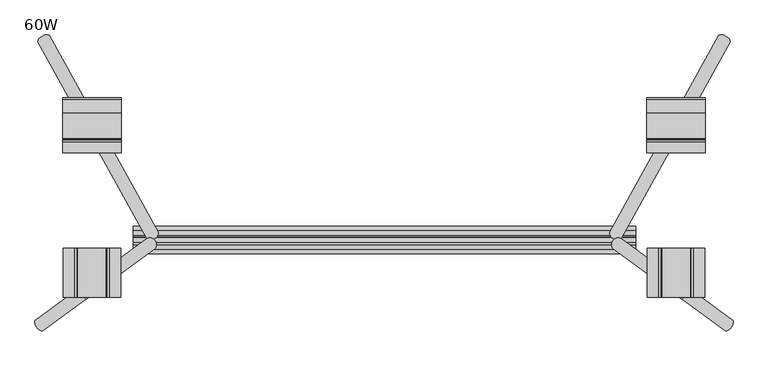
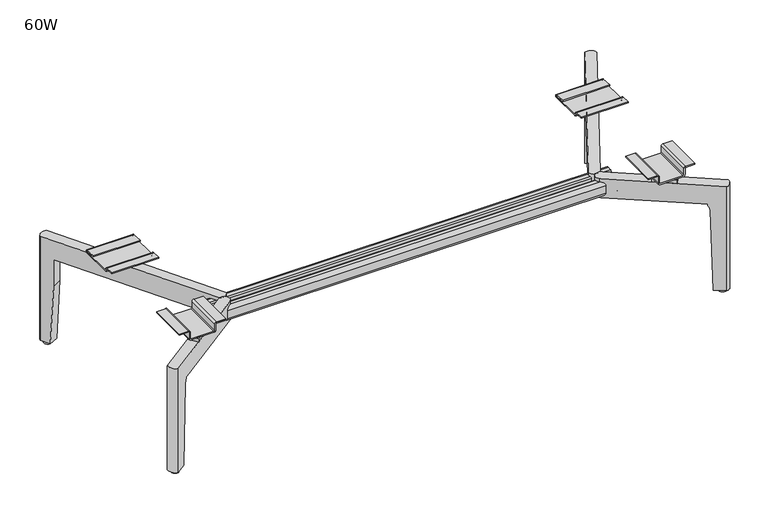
"""IFC4 building model written with IfcOpenShell, lengths in millimetres: furniture geometry, Steelcase Turnstone - Bivi - Seat - Rumble Seat - Freestanding Leg : 60W."""

from ifc_helpers import new_model, si_unit, point, frame, frame_2d, origin, place, context, project, spatial, polyline, circle_curve, ellipse_curve, trimmed, segment, composite_curve, outline, extrude, source, transform, mapped, element, save
from ifc_brep_helpers import plane_surface, cylinder_surface, revolved_surface, advanced_brep


def furniture_60w_b1f3d5a1(model_context):
    return source(origin(), model_context, "Body", "SolidModel", [
        advanced_brep(
        [(-600.2548281, 399.932442, 6.3507797), (-601.698132, 399.6401574, 0.0), (-595.1371977, 403.2769427, 0.0), (-596.1499037, 402.2078387, 6.3507797), (-613.1193509, 409.6947013, 6.3507797), (-592.8467253, 409.6947013, 6.3507797), (-592.8467253, 409.6947013, 0.0), (-613.1193509, 409.6947013, 0.0)],
        [
            (0, 1, ellipse_curve(frame((-602.9830381, 409.6947013, -134.6670445), z_axis=(0.4836286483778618, -0.872489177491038, -0.06975647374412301), x_axis=(0.03381860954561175, -0.061010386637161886, 0.9975640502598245)), 145.3099945, 10.1363128)),
            (1, 2),
            (2, 3, ellipse_curve(frame((-602.9830381, 409.6947013, -134.6670445), z_axis=(0.4836286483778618, -0.872489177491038, -0.06975647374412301), x_axis=(0.03381860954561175, -0.061010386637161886, 0.9975640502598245)), 145.3099945, 10.1363128)),
            (3, 0),
            (4, 0, circle_curve(frame((-602.9830381, 409.6947013, 6.3507797), z_axis=(0.0, 0.0, 1.0), x_axis=(1.0, 0.0, 0.0)), 10.1363128)),
            (3, 5, circle_curve(frame((-602.9830381, 409.6947013, 6.3507797), z_axis=(0.0, 0.0, 1.0), x_axis=(1.0, 0.0, 0.0)), 10.1363128)),
            (5, 4, circle_curve(frame((-602.9830381, 409.6947013, 6.3507797), z_axis=(0.0, 0.0, 1.0), x_axis=(1.0, 0.0, 0.0)), 10.1363128)),
            (6, 2, circle_curve(frame((-602.9830381, 409.6947013, 0.0), z_axis=(0.0, 0.0, -1.0), x_axis=(1.0, 0.0, 0.0)), 10.1363128)),
            (1, 7, circle_curve(frame((-602.9830381, 409.6947013, 0.0), z_axis=(0.0, 0.0, -1.0), x_axis=(1.0, 0.0, 0.0)), 10.1363128)),
            (7, 6, circle_curve(frame((-602.9830381, 409.6947013, 0.0), z_axis=(0.0, 0.0, -1.0), x_axis=(1.0, 0.0, 0.0)), 10.1363128)),
            (6, 5),
            (4, 7),
        ],
        [
            plane_surface(frame((-324.1888142, 535.4370031, 225.5013372), z_axis=(0.4836286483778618, -0.872489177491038, -0.06975647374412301), x_axis=(-0.8746197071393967, -0.48480962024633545, 0.0))),
            plane_surface(frame((-599.1419649, -171.9895532, 6.3507797), z_axis=(0.0, 0.0, 1.0), x_axis=(0.0, -1.0, 0.0))),
            plane_surface(frame((-599.1419649, -171.9895532, 0.0), z_axis=(0.0, 0.0, -1.0), x_axis=(0.0, 1.0, 0.0))),
            cylinder_surface(frame((-602.9830381, 409.6947013, 0.0), z_axis=(0.0, 0.0, 1.0), x_axis=(1.0, 0.0, 0.0)), 10.1363128),
        ],
        [
            (0, [[1, 2, 3, 4]]),
            (1, [[5, -4, 6, 7]]),
            (2, [[8, -2, 9, 10]]),
            (3, [[-6, -3, -8, 11]]),
            (3, [[-9, -1, -5, 12]]),
            (3, [[-11, -10, -12, -7]]),
        ],
    ),
        advanced_brep(
        [(-618.8437124, -171.9895532, 6.3507797), (-599.1419649, -171.9895532, 6.3507797), (-618.8437124, -171.9895532, 0.0), (-599.1419649, -171.9895532, 0.0)],
        [
            (0, 1, circle_curve(frame((-608.9928387, -171.9895532, 6.3507797), z_axis=(0.0, 0.0, 1.0), x_axis=(1.0, 0.0, 0.0)), 9.8508738)),
            (1, 0, circle_curve(frame((-608.9928387, -171.9895532, 6.3507797), z_axis=(0.0, 0.0, 1.0), x_axis=(1.0, 0.0, 0.0)), 9.8508738)),
            (2, 3, circle_curve(frame((-608.9928387, -171.9895532, 0.0), z_axis=(0.0, 0.0, -1.0), x_axis=(1.0, 0.0, 0.0)), 9.8508738)),
            (3, 2, circle_curve(frame((-608.9928387, -171.9895532, 0.0), z_axis=(0.0, 0.0, -1.0), x_axis=(1.0, 0.0, 0.0)), 9.8508738)),
            (0, 2),
            (3, 1),
        ],
        [
            plane_surface(frame((-599.1419649, -171.9895532, 6.3507797), z_axis=(0.0, 0.0, 1.0), x_axis=(0.0, -1.0, 0.0))),
            plane_surface(frame((-599.1419649, -171.9895532, 0.0), z_axis=(0.0, 0.0, -1.0), x_axis=(0.0, 1.0, 0.0))),
            cylinder_surface(frame((-608.9928387, -171.9895532, 0.0), z_axis=(0.0, 0.0, 1.0), x_axis=(1.0, 0.0, 0.0)), 9.8508738),
        ],
        [
            (0, [[1, 2]]),
            (1, [[3, 4]]),
            (2, [[5, -4, 6, -1]]),
            (2, [[-6, -3, -5, -2]]),
        ],
    ),
        advanced_brep(
        [(-609.9662616, -189.9876549, 6.7022799), (-609.9662616, -189.9876549, 292.4522799), (-625.9132074, -168.2156528, 292.4522799), (-625.9132074, -168.2156528, 6.7022799), (-393.2156572, 2.2241264, 241.2086832), (-393.2156572, 2.2241264, 292.4522799), (-377.2687113, -19.5478757, 292.4522799), (-377.2687113, -19.5478757, 241.2086832), (-601.0415256, -149.9983405, 6.7022799), (-585.5586161, -172.1102269, 6.7022799), (-380.0420494, -21.5792126, 241.2086832), (-563.4791874, -155.9381058, 241.2086832), (-578.9620969, -133.8262194, 241.2086832), (-395.9889952, 0.1927895, 241.2086832), (-590.6836418, -142.4116881, 241.2086832), (-584.0129574, -137.5257321, 241.2086832), (-568.5300478, -159.6376185, 241.2086832), (-574.736696, -164.1836902, 241.2086832), (-380.0420494, -21.5792126, 292.4522799), (-579.3937008, -167.5947225, 225.4829664), (-574.736696, -164.1836902, 237.4952058), (-395.9889952, 0.1927895, 292.4522799), (-590.6836418, -142.4116881, 236.9772021), (-594.8766103, -145.4828361, 225.4829664)],
        [
            (0, 1),
            (1, 2, circle_curve(frame((-606.7433039, -170.9008062, 292.4522799), z_axis=(0.0, 0.0, -1.0), x_axis=(1.0, 0.0, 0.0)), 19.3570465)),
            (2, 3),
            (3, 0, circle_curve(frame((-606.7433039, -170.9008062, 6.7022799), z_axis=(0.0, 0.0, 1.0), x_axis=(1.0, 0.0, 0.0)), 19.3570465)),
            (4, 5),
            (5, 6, circle_curve(frame((-386.6288533, -9.6775431, 292.4522799), z_axis=(0.0, 0.0, -1.0), x_axis=(1.0, 0.0, 0.0)), 13.6027836)),
            (6, 7),
            (7, 4, circle_curve(frame((-386.6288533, -9.6775431, 241.2086832), z_axis=(0.0, 0.0, 1.0), x_axis=(1.0, 0.0, 0.0)), 13.6027836)),
            (3, 8),
            (8, 9),
            (9, 0),
            (7, 10),
            (10, 11),
            (11, 12),
            (12, 13),
            (13, 4),
            (14, 15),
            (15, 16),
            (16, 17),
            (17, 14),
            (6, 18),
            (18, 1),
            (9, 19),
            (19, 20, ellipse_curve(frame((-566.0046176, -157.7878621, 224.9035373), z_axis=(-0.5909011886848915, 0.8067439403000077, 0.0), x_axis=(0.8067439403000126, 0.5909011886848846, 0.0)), 16.6065634, 16.6027928)),
            (20, 17),
            (16, 11, ellipse_curve(frame((-566.0046176, -157.7878621, 224.9035373), z_axis=(-0.5909011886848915, 0.8067439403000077, 0.0), x_axis=(0.8067439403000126, 0.5909011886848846, 0.0)), 16.6065634, 16.6027928)),
            (5, 21),
            (21, 2),
            (12, 15, ellipse_curve(frame((-581.4875271, -135.6759757, 224.9035373), z_axis=(0.5909011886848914, -0.8067439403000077, 0.0), x_axis=(0.8067439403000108, 0.5909011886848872, 0.0)), 16.6065634, 16.6027928)),
            (14, 22),
            (22, 23, ellipse_curve(frame((-581.4875271, -135.6759757, 224.9035373), z_axis=(0.5909011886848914, -0.8067439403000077, 0.0), x_axis=(0.8067439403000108, 0.5909011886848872, 0.0)), 16.6065634, 16.6027928)),
            (23, 8),
            (20, 22, ellipse_curve(frame((-274.6524516, -573.8818773, 224.9035373), z_axis=(-0.8067439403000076, -0.5909011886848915, 0.0), x_axis=(-0.5909011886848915, 0.8067439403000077, 0.0)), 779.1591647, 16.6027928)),
            (23, 19),
        ],
        [
            cylinder_surface(frame((-606.7433039, -170.9008062, 0.0), z_axis=(0.0, 0.0, -1.0), x_axis=(1.0, 0.0, 0.0)), 19.3570465),
            cylinder_surface(frame((-386.6288533, -9.6775431, 0.0), z_axis=(0.0, 0.0, -1.0), x_axis=(1.0, 0.0, 0.0)), 13.6027836),
            plane_surface(frame((-624.1396919, -183.4559971, 6.7022799), z_axis=(0.0, 0.0, -1.0), x_axis=(-0.5909011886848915, 0.8067439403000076, 0.0))),
            plane_surface(frame((-369.6996816, 19.448449, 241.2086832), z_axis=(0.0, 0.0, -1.0000000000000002), x_axis=(-0.8067439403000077, -0.5909011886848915, 0.0))),
            plane_surface(frame((-353.7527358, -2.3235531, 241.2086832), z_axis=(0.5909011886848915, -0.8067439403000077, 0.0), x_axis=(-0.8067439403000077, -0.5909011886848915, 0.0))),
            plane_surface(frame((-353.7527358, -2.3235531, 292.4522799), z_axis=(0.0, 0.0, 1.0), x_axis=(-0.8067439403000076, -0.5909011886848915, 0.0))),
            plane_surface(frame((-369.6996816, 19.448449, 292.4522799), z_axis=(-0.5909011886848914, 0.8067439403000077, 0.0), x_axis=(-0.8067439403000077, -0.5909011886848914, 0.0))),
            plane_surface(frame((-590.6836418, -142.4116881, 241.2086832), z_axis=(0.8067439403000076, 0.5909011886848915, 0.0), x_axis=(0.0, 0.0, -1.0))),
            plane_surface(frame((-761.8927218, 93.0408907, 225.4829664), z_axis=(0.818653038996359, 0.5732270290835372, -0.0348994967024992), x_axis=(0.5735764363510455, -0.8191520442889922, 0.0))),
            revolved_surface(polyline([(-568.0902827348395, -125.8631376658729, 224.9035373), (-552.2014386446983, -148.55475868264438, 224.9035373)]), (-373.006391, -433.4178947, 224.9035373), (-0.5735764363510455, 0.8191520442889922, 0.0)),
            revolved_surface(polyline([(-707.8581048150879, 73.74599884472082, 224.9035373), (185.75362502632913, -1202.463811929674, 224.9035373)]), (-373.006391, -433.4178947, 224.9035373), (-0.5735764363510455, 0.8191520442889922, 0.0)),
        ],
        [
            (0, [[1, 2, 3, 4]]),
            (1, [[5, 6, 7, 8]]),
            (2, [[9, 10, 11, -4]]),
            (3, [[-8, 12, 13, 14, 15, 16]]),
            (3, [[17, 18, 19, 20]]),
            (4, [[-7, 21, 22, -1, -11, 23, 24, 25, -19, 26, -13, -12]]),
            (5, [[-21, -6, 27, 28, -2, -22]]),
            (6, [[-15, 29, -17, 30, 31, 32, -9, -3, -28, -27, -5, -16]]),
            (7, [[-25, 33, -30, -20]]),
            (8, [[-23, -10, -32, 34]]),
            (9, [[-29, -14, -26, -18]]),
            (10, [[-31, -33, -24, -34]]),
        ],
    ),
        advanced_brep(
        [(-596.6904487, 426.4865494, 6.7022799), (-583.6709408, 402.9987354, 6.7022799), (-607.2747402, 389.9149358, 6.7022799), (-620.294248, 413.4027498, 6.7022799), (-579.5537242, 395.57108, 241.2086832), (-573.8162326, 385.2203713, 241.2086832), (-369.1819531, 16.0503586, 241.2086832), (-392.7857524, 2.966559, 241.2086832), (-597.420032, 372.1365716, 241.2086832), (-603.1575235, 382.4872804, 241.2086832), (-369.1819531, 16.0503586, 292.4522799), (-579.5537242, 395.57108, 168.7476885), (-596.6904487, 426.4865494, 292.4522799), (-620.294248, 413.4027498, 292.4522799), (-392.7857524, 2.966559, 292.4522799), (-603.1575235, 382.4872804, 168.7476885)],
        [
            (0, 1),
            (1, 2),
            (2, 3),
            (3, 0, circle_curve(frame((-601.8837107, 408.0223516, 6.7022799), z_axis=(0.0, 0.0, -1.0), x_axis=(1.0, 0.0, 0.0)), 19.1806301)),
            (4, 5),
            (5, 6),
            (6, 7, circle_curve(frame((-384.0722089, 15.0800008, 241.2086832), z_axis=(0.0, 0.0, -1.0), x_axis=(1.0, 0.0, 0.0)), 14.9218401)),
            (7, 8),
            (8, 9),
            (9, 4),
            (10, 6),
            (4, 11),
            (11, 1),
            (0, 12),
            (12, 10),
            (12, 13, circle_curve(frame((-601.8837107, 408.0223516, 292.4522799), z_axis=(0.0, 0.0, 1.0), x_axis=(1.0, 0.0, 0.0)), 19.1806301)),
            (13, 14),
            (14, 10, circle_curve(frame((-384.0722089, 15.0800008, 292.4522799), z_axis=(0.0, 0.0, 1.0), x_axis=(1.0, 0.0, 0.0)), 14.9218401)),
            (13, 3),
            (2, 15),
            (15, 9),
            (7, 14),
            (15, 11),
        ],
        [
            plane_surface(frame((-616.3308371, 433.7747682, 6.7022799), z_axis=(0.0, 0.0, -1.0000000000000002), x_axis=(-0.8746197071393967, -0.4848096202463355, 0.0))),
            plane_surface(frame((-351.3909415, -16.045476, 241.2086832), z_axis=(0.0, 0.0, -1.0), x_axis=(-0.48480962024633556, 0.8746197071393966, 0.0))),
            plane_surface(frame((-351.3909415, -16.045476, 292.4522799), z_axis=(0.8746197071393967, 0.48480962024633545, 0.0), x_axis=(-0.48480962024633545, 0.8746197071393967, 0.0))),
            plane_surface(frame((-374.9947408, -29.1292756, 292.4522799), z_axis=(0.0, 0.0, 1.0), x_axis=(-0.48480962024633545, 0.8746197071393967, 0.0))),
            plane_surface(frame((-374.9947408, -29.1292756, 241.2086832), z_axis=(-0.8746197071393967, -0.4848096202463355, 0.0), x_axis=(-0.4848096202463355, 0.8746197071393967, 0.0))),
            plane_surface(frame((-579.5537242, 395.57108, 241.2086832), z_axis=(0.48480962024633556, -0.8746197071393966, 0.0), x_axis=(0.0, 0.0, -1.0))),
            cylinder_surface(frame((-601.8837107, 408.0223516, 0.0), z_axis=(0.0, 0.0, -1.0), x_axis=(1.0, 0.0, 0.0)), 19.1806301),
            cylinder_surface(frame((-384.0722089, 15.0800008, 0.0), z_axis=(0.0, 0.0, -1.0), x_axis=(1.0, 0.0, 0.0)), 14.9218401),
            plane_surface(frame((-323.4618568, 534.1255371, 225.4824396), z_axis=(0.4841452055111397, -0.8734210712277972, -0.05233595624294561), x_axis=(-0.8746197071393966, -0.48480962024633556, 0.0))),
        ],
        [
            (0, [[1, 2, 3, 4]]),
            (1, [[5, 6, 7, 8, 9, 10]]),
            (2, [[11, -6, -5, 12, 13, -1, 14, 15]]),
            (3, [[16, 17, 18, -15]]),
            (4, [[19, -3, 20, 21, -9, -8, 22, -17]]),
            (5, [[-21, 23, -12, -10]]),
            (6, [[-19, -16, -14, -4]]),
            (7, [[-11, -18, -22, -7]]),
            (8, [[-13, -23, -20, -2]]),
        ],
    ),
        extrude(outline(polyline([(-512.6254616, 274.8292982), (-484.0935947, 223.3564477), (-507.2019114, 210.5472986), (-535.7337783, 262.0201491), (-512.6254616, 274.8292982)])), frame((0.0, 0.0, 292.4522799), z_axis=(0.0, 0.0, 1.0), x_axis=(1.0, 0.0, 0.0)), (0.0, 0.0, 1.0), 9.681731),
        extrude(outline(polyline([(-488.5197035, -67.5815101), (-472.5727577, -89.3535122), (-519.5031783, -123.7277912), (-535.4501241, -101.9557892), (-488.5197035, -67.5815101)])), frame((0.0, 0.0, 292.4522799), z_axis=(0.0, 0.0, 1.0), x_axis=(1.0, 0.0, 0.0)), (0.0, 0.0, 1.0), 9.681731),
        extrude(outline(composite_curve([segment(polyline([(329.0146194, -543.936926), (329.0146194, -567.319227), (326.1962261, -567.319227), (326.1962261, -541.9196146), (307.319003, -541.9196146)]), True, "CONTINUOUS"), segment(trimmed(circle_curve(frame_2d((307.319003, -536.7346224)), 5.1849921), [point((307.319003, -541.9196146))], [point((302.1340108, -536.7346224))], False, "CARTESIAN"), True, "CONTINUOUS"), segment(polyline([(302.1340108, -536.7346224), (302.1340108, -477.3218765)]), True, "CONTINUOUS"), segment(trimmed(circle_curve(frame_2d((307.319003, -477.3218765)), 5.1849921), [point((302.1340108, -477.3218765))], [point((307.319003, -472.1368843))], False, "CARTESIAN"), True, "CONTINUOUS"), segment(polyline([(307.319003, -472.1368843), (326.1962261, -472.1368843), (326.1962261, -446.7372719), (329.0146194, -446.7372719), (329.0146194, -470.1195729)]), True, "CONTINUOUS"), segment(trimmed(circle_curve(frame_2d((323.9591212, -470.1195729)), 5.0554981), [point((329.0146194, -470.1195729))], [point((323.9591212, -475.175071))], False, "CARTESIAN"), True, "CONTINUOUS"), segment(polyline([(323.9591212, -475.175071), (307.4106461, -475.175071)]), True, "CONTINUOUS"), segment(trimmed(circle_curve(frame_2d((307.4106461, -477.4138648)), 2.2387938), [point((307.4106461, -475.175071))], [point((305.1718523, -477.4138648))], True, "CARTESIAN"), True, "CONTINUOUS"), segment(polyline([(305.1718523, -477.4138648), (305.1718523, -536.6426342)]), True, "CONTINUOUS"), segment(trimmed(circle_curve(frame_2d((307.4106461, -536.6426342)), 2.2387938), [point((305.1718523, -536.6426342))], [point((307.4106461, -538.8814279))], True, "CARTESIAN"), True, "CONTINUOUS"), segment(polyline([(307.4106461, -538.8814279), (323.9591212, -538.8814279)]), True, "CONTINUOUS"), segment(trimmed(circle_curve(frame_2d((323.9591212, -543.936926)), 5.0554981), [point((323.9591212, -538.8814279))], [point((329.0146194, -543.936926))], False, "CARTESIAN"), True, "CONTINUOUS")], self_intersect=False)), frame((0.0, -119.6808622, 0.0), z_axis=(0.0, 1.0, 0.0), x_axis=(0.0, 0.0, 1.0)), (0.0, 0.0, 1.0), 101.810408),
        extrude(outline(composite_curve([segment(polyline([(210.5472986, 305.1718523), (293.0972986, 305.1718523)]), True, "CONTINUOUS"), segment(trimmed(circle_curve(frame_2d((293.0706733, 305.6798944)), 0.5087393), [point((293.0972986, 305.1718523))], [point((293.0972986, 306.1879364))], True, "CARTESIAN"), True, "CONTINUOUS"), segment(polyline([(293.0972986, 306.1879364), (264.6966329, 307.6763522), (264.6966329, 310.6138209), (293.0972986, 309.1254051)]), True, "CONTINUOUS"), segment(trimmed(circle_curve(frame_2d((292.9140969, 305.629708)), 3.5004944), [point((293.0972986, 309.1254051))], [point((293.0972986, 302.1340108))], False, "CARTESIAN"), True, "CONTINUOUS"), segment(polyline([(293.0972986, 302.1340108), (210.5472986, 302.1340108)]), True, "CONTINUOUS"), segment(trimmed(circle_curve(frame_2d((210.5472986, 306.5928983)), 4.4588874), [point((210.5472986, 302.1340108))], [point((206.0896008, 306.6958872))], False, "CARTESIAN"), True, "CONTINUOUS"), segment(polyline([(206.0896008, 306.6958872), (206.0896008, 308.9892465)]), True, "CONTINUOUS"), segment(trimmed(circle_curve(frame_2d((204.5626663, 308.9892465)), 1.5269345), [point((206.0896008, 308.9892465))], [point((204.6399799, 310.5142224))], True, "CARTESIAN"), True, "CONTINUOUS"), segment(polyline([(204.6399799, 310.5142224), (181.1002415, 311.7478878), (181.1002415, 314.6691166), (204.5350283, 313.4409515)]), True, "CONTINUOUS"), segment(trimmed(circle_curve(frame_2d((204.2966829, 308.8930489)), 4.5541438), [point((204.5350283, 313.4409515))], [point((208.6006854, 310.3816014))], False, "CARTESIAN"), True, "CONTINUOUS"), segment(trimmed(circle_curve(frame_2d((199.2165598, 307.1360729)), 9.9295149), [point((208.6006854, 310.3816014))], [point((209.1329432, 306.625575))], False, "CARTESIAN"), True, "CONTINUOUS"), segment(trimmed(circle_curve(frame_2d((211.0902359, 307.1149751)), 2.0175498), [point((209.1329432, 306.625575))], [point((210.5472986, 305.1718523))], True, "CARTESIAN"), True, "CONTINUOUS")], self_intersect=False)), frame((-568.4038708, 0.0, 0.0), z_axis=(1.0, 0.0, 0.0), x_axis=(0.0, 1.0, 0.0)), (0.0, 0.0, 1.0), 121.840912),
        advanced_brep(
        [(803.4798535, 399.932442, 6.3507797), (799.3749291, 402.2078387, 6.3507797), (798.3622232, 403.2769427, 0.0), (804.9231575, 399.6401574, 0.0), (816.3443764, 409.6947013, 6.3507797), (796.0717507, 409.6947013, 6.3507797), (796.0717507, 409.6947013, 0.0), (816.3443764, 409.6947013, 0.0)],
        [
            (0, 1),
            (1, 2, ellipse_curve(frame((806.2080635, 409.6947013, -134.6670445), z_axis=(-0.4836286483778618, -0.872489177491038, -0.06975647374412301), x_axis=(-0.03381860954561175, -0.061010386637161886, 0.9975640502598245)), 145.3099945, 10.1363128)),
            (2, 3),
            (3, 0, ellipse_curve(frame((806.2080635, 409.6947013, -134.6670445), z_axis=(-0.4836286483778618, -0.872489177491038, -0.06975647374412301), x_axis=(-0.03381860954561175, -0.061010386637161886, 0.9975640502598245)), 145.3099945, 10.1363128)),
            (4, 5, circle_curve(frame((806.2080635, 409.6947013, 6.3507797), z_axis=(0.0, 0.0, 1.0), x_axis=(-1.0, 0.0, 0.0)), 10.1363128)),
            (5, 1, circle_curve(frame((806.2080635, 409.6947013, 6.3507797), z_axis=(0.0, 0.0, 1.0), x_axis=(-1.0, 0.0, 0.0)), 10.1363128)),
            (0, 4, circle_curve(frame((806.2080635, 409.6947013, 6.3507797), z_axis=(0.0, 0.0, 1.0), x_axis=(-1.0, 0.0, 0.0)), 10.1363128)),
            (6, 7, circle_curve(frame((806.2080635, 409.6947013, 0.0), z_axis=(0.0, 0.0, -1.0), x_axis=(-1.0, 0.0, 0.0)), 10.1363128)),
            (7, 3, circle_curve(frame((806.2080635, 409.6947013, 0.0), z_axis=(0.0, 0.0, -1.0), x_axis=(-1.0, 0.0, 0.0)), 10.1363128)),
            (2, 6, circle_curve(frame((806.2080635, 409.6947013, 0.0), z_axis=(0.0, 0.0, -1.0), x_axis=(-1.0, 0.0, 0.0)), 10.1363128)),
            (5, 6),
            (7, 4),
        ],
        [
            plane_surface(frame((527.4138397, 535.4370031, 225.5013372), z_axis=(-0.4836286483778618, -0.872489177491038, -0.06975647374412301), x_axis=(0.8746197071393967, -0.48480962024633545, 0.0))),
            plane_surface(frame((802.3669904, -171.9895532, 6.3507797), z_axis=(0.0, 0.0, 1.0), x_axis=(0.0, -1.0, 0.0))),
            plane_surface(frame((802.3669904, -171.9895532, 0.0), z_axis=(0.0, 0.0, -1.0), x_axis=(0.0, 1.0, 0.0))),
            cylinder_surface(frame((806.2080635, 409.6947013, 0.0), z_axis=(0.0, 0.0, 1.0), x_axis=(-1.0, 0.0, 0.0)), 10.1363128),
        ],
        [
            (0, [[1, 2, 3, 4]]),
            (1, [[5, 6, -1, 7]]),
            (2, [[8, 9, -3, 10]]),
            (3, [[11, -10, -2, -6]]),
            (3, [[12, -7, -4, -9]]),
            (3, [[-5, -12, -8, -11]]),
        ],
    ),
        advanced_brep(
        [(822.0687379, -171.9895532, 6.3507797), (802.3669904, -171.9895532, 6.3507797), (822.0687379, -171.9895532, 0.0), (802.3669904, -171.9895532, 0.0)],
        [
            (0, 1, circle_curve(frame((812.2178641, -171.9895532, 6.3507797), z_axis=(0.0, 0.0, 1.0), x_axis=(-1.0, 0.0, 0.0)), 9.8508738)),
            (1, 0, circle_curve(frame((812.2178641, -171.9895532, 6.3507797), z_axis=(0.0, 0.0, 1.0), x_axis=(-1.0, 0.0, 0.0)), 9.8508738)),
            (2, 3, circle_curve(frame((812.2178641, -171.9895532, 0.0), z_axis=(0.0, 0.0, -1.0), x_axis=(-1.0, 0.0, 0.0)), 9.8508738)),
            (3, 2, circle_curve(frame((812.2178641, -171.9895532, 0.0), z_axis=(0.0, 0.0, -1.0), x_axis=(-1.0, 0.0, 0.0)), 9.8508738)),
            (1, 3),
            (2, 0),
        ],
        [
            plane_surface(frame((802.3669904, -171.9895532, 6.3507797), z_axis=(0.0, 0.0, 1.0), x_axis=(0.0, -1.0, 0.0))),
            plane_surface(frame((802.3669904, -171.9895532, 0.0), z_axis=(0.0, 0.0, -1.0), x_axis=(0.0, 1.0, 0.0))),
            cylinder_surface(frame((812.2178641, -171.9895532, 0.0), z_axis=(0.0, 0.0, 1.0), x_axis=(-1.0, 0.0, 0.0)), 9.8508738),
        ],
        [
            (0, [[1, 2]]),
            (1, [[3, 4]]),
            (2, [[-2, 5, -3, 6]]),
            (2, [[-1, -6, -4, -5]]),
        ],
    ),
        advanced_brep(
        [(813.191287, -189.9876549, 6.7022799), (829.1382329, -168.2156528, 6.7022799), (829.1382329, -168.2156528, 292.4522799), (813.191287, -189.9876549, 292.4522799), (596.4406826, 2.2241264, 241.2086832), (580.4937368, -19.5478757, 241.2086832), (580.4937368, -19.5478757, 292.4522799), (596.4406826, 2.2241264, 292.4522799), (788.7836416, -172.1102269, 6.7022799), (804.2665511, -149.9983405, 6.7022799), (793.9086673, -142.4116881, 241.2086832), (777.9617215, -164.1836902, 241.2086832), (771.7550733, -159.6376185, 241.2086832), (787.2379828, -137.5257321, 241.2086832), (599.2140207, 0.1927895, 241.2086832), (782.1871224, -133.8262194, 241.2086832), (766.7042128, -155.9381058, 241.2086832), (583.2670749, -21.5792126, 241.2086832), (777.9617215, -164.1836902, 237.4952058), (782.6187262, -167.5947225, 225.4829664), (583.2670749, -21.5792126, 292.4522799), (599.2140207, 0.1927895, 292.4522799), (798.1016358, -145.4828361, 225.4829664), (793.9086673, -142.4116881, 236.9772021)],
        [
            (0, 1, circle_curve(frame((809.9683293, -170.9008062, 6.7022799), z_axis=(0.0, 0.0, 1.0), x_axis=(-1.0, 0.0, 0.0)), 19.3570465)),
            (1, 2),
            (2, 3, circle_curve(frame((809.9683293, -170.9008062, 292.4522799), z_axis=(0.0, 0.0, -1.0), x_axis=(-1.0, 0.0, 0.0)), 19.3570465)),
            (3, 0),
            (4, 5, circle_curve(frame((589.8538787, -9.6775431, 241.2086832), z_axis=(0.0, 0.0, 1.0), x_axis=(-1.0, 0.0, 0.0)), 13.6027836)),
            (5, 6),
            (6, 7, circle_curve(frame((589.8538787, -9.6775431, 292.4522799), z_axis=(0.0, 0.0, -1.0), x_axis=(-1.0, 0.0, 0.0)), 13.6027836)),
            (7, 4),
            (0, 8),
            (8, 9),
            (9, 1),
            (10, 11),
            (11, 12),
            (12, 13),
            (13, 10),
            (4, 14),
            (14, 15),
            (15, 16),
            (16, 17),
            (17, 5),
            (16, 12, ellipse_curve(frame((769.2296431, -157.7878621, 224.9035373), z_axis=(0.5909011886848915, 0.8067439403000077, 0.0), x_axis=(-0.8067439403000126, 0.5909011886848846, 0.0)), 16.6065634, 16.6027928)),
            (11, 18),
            (18, 19, ellipse_curve(frame((769.2296431, -157.7878621, 224.9035373), z_axis=(0.5909011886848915, 0.8067439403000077, 0.0), x_axis=(-0.8067439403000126, 0.5909011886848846, 0.0)), 16.6065634, 16.6027928)),
            (19, 8),
            (3, 20),
            (20, 6),
            (2, 21),
            (21, 7),
            (9, 22),
            (22, 23, ellipse_curve(frame((784.7125526, -135.6759757, 224.9035373), z_axis=(-0.5909011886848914, -0.8067439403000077, 0.0), x_axis=(-0.8067439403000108, 0.5909011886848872, 0.0)), 16.6065634, 16.6027928)),
            (23, 10),
            (13, 15, ellipse_curve(frame((784.7125526, -135.6759757, 224.9035373), z_axis=(-0.5909011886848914, -0.8067439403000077, 0.0), x_axis=(-0.8067439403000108, 0.5909011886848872, 0.0)), 16.6065634, 16.6027928)),
            (23, 18, ellipse_curve(frame((477.877477, -573.8818773, 224.9035373), z_axis=(0.8067439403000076, -0.5909011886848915, 0.0), x_axis=(0.5909011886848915, 0.8067439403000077, 0.0)), 779.1591647, 16.6027928)),
            (19, 22),
        ],
        [
            cylinder_surface(frame((809.9683293, -170.9008062, 0.0), z_axis=(0.0, 0.0, -1.0), x_axis=(-1.0, 0.0, 0.0)), 19.3570465),
            cylinder_surface(frame((589.8538787, -9.6775431, 0.0), z_axis=(0.0, 0.0, -1.0), x_axis=(-1.0, 0.0, 0.0)), 13.6027836),
            plane_surface(frame((827.3647174, -183.4559971, 6.7022799), z_axis=(0.0, 0.0, -1.0), x_axis=(0.5909011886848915, 0.8067439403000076, 0.0))),
            plane_surface(frame((572.9247071, 19.448449, 241.2086832), z_axis=(0.0, 0.0, -1.0000000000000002), x_axis=(0.8067439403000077, -0.5909011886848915, 0.0))),
            plane_surface(frame((556.9777613, -2.3235531, 241.2086832), z_axis=(-0.5909011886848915, -0.8067439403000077, 0.0), x_axis=(0.8067439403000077, -0.5909011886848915, 0.0))),
            plane_surface(frame((556.9777613, -2.3235531, 292.4522799), z_axis=(0.0, 0.0, 1.0), x_axis=(0.8067439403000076, -0.5909011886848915, 0.0))),
            plane_surface(frame((572.9247071, 19.448449, 292.4522799), z_axis=(0.5909011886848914, 0.8067439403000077, 0.0), x_axis=(0.8067439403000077, -0.5909011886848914, 0.0))),
            plane_surface(frame((793.9086673, -142.4116881, 241.2086832), z_axis=(-0.8067439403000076, 0.5909011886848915, 0.0), x_axis=(0.0, 0.0, -1.0))),
            plane_surface(frame((965.1177473, 93.0408907, 225.4829664), z_axis=(-0.818653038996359, 0.5732270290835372, -0.0348994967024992), x_axis=(-0.5735764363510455, -0.8191520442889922, 0.0))),
            revolved_surface(polyline([(771.3153082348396, -125.8631376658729, 224.9035373), (755.4264641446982, -148.55475868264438, 224.9035373)]), (576.2314165, -433.4178947, 224.9035373), (0.5735764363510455, 0.8191520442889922, 0.0)),
            revolved_surface(polyline([(911.083130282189, 73.74599879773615, 224.9035373), (17.47140044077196, -1202.4638119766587, 224.9035373)]), (576.2314165, -433.4178947, 224.9035373), (0.5735764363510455, 0.8191520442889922, 0.0)),
        ],
        [
            (0, [[1, 2, 3, 4]]),
            (1, [[5, 6, 7, 8]]),
            (2, [[-1, 9, 10, 11]]),
            (3, [[12, 13, 14, 15]]),
            (3, [[16, 17, 18, 19, 20, -5]]),
            (4, [[-20, -19, 21, -13, 22, 23, 24, -9, -4, 25, 26, -6]]),
            (5, [[-25, -3, 27, 28, -7, -26]]),
            (6, [[-16, -8, -28, -27, -2, -11, 29, 30, 31, -15, 32, -17]]),
            (7, [[-12, -31, 33, -22]]),
            (8, [[34, -29, -10, -24]]),
            (9, [[-14, -21, -18, -32]]),
            (10, [[-34, -23, -33, -30]]),
        ],
    ),
        advanced_brep(
        [(799.9154741, 426.4865494, 6.7022799), (823.5192735, 413.4027498, 6.7022799), (810.4997656, 389.9149358, 6.7022799), (786.8959663, 402.9987354, 6.7022799), (782.7787497, 395.57108, 241.2086832), (806.382549, 382.4872804, 241.2086832), (800.6450574, 372.1365716, 241.2086832), (596.0107779, 2.966559, 241.2086832), (572.4069785, 16.0503586, 241.2086832), (777.0412581, 385.2203713, 241.2086832), (572.4069785, 16.0503586, 292.4522799), (799.9154741, 426.4865494, 292.4522799), (782.7787497, 395.57108, 168.7476885), (596.0107779, 2.966559, 292.4522799), (823.5192735, 413.4027498, 292.4522799), (806.382549, 382.4872804, 168.7476885)],
        [
            (0, 1, circle_curve(frame((805.1087361, 408.0223516, 6.7022799), z_axis=(0.0, 0.0, -1.0), x_axis=(-1.0, 0.0, 0.0)), 19.1806301)),
            (1, 2),
            (2, 3),
            (3, 0),
            (4, 5),
            (5, 6),
            (6, 7),
            (7, 8, circle_curve(frame((587.2972344, 15.0800008, 241.2086832), z_axis=(0.0, 0.0, -1.0), x_axis=(-1.0, 0.0, 0.0)), 14.9218401)),
            (8, 9),
            (9, 4),
            (10, 11),
            (11, 0),
            (3, 12),
            (12, 4),
            (8, 10),
            (10, 13, circle_curve(frame((587.2972344, 15.0800008, 292.4522799), z_axis=(0.0, 0.0, 1.0), x_axis=(-1.0, 0.0, 0.0)), 14.9218401)),
            (13, 14),
            (14, 11, circle_curve(frame((805.1087361, 408.0223516, 292.4522799), z_axis=(0.0, 0.0, 1.0), x_axis=(-1.0, 0.0, 0.0)), 19.1806301)),
            (13, 7),
            (5, 15),
            (15, 2),
            (1, 14),
            (12, 15),
        ],
        [
            plane_surface(frame((819.5558626, 433.7747682, 6.7022799), z_axis=(0.0, 0.0, -1.0000000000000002), x_axis=(0.8746197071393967, -0.4848096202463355, 0.0))),
            plane_surface(frame((554.6159669, -16.045476, 241.2086832), z_axis=(0.0, 0.0, -1.0), x_axis=(0.48480962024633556, 0.8746197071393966, 0.0))),
            plane_surface(frame((554.6159669, -16.045476, 292.4522799), z_axis=(-0.8746197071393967, 0.48480962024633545, 0.0), x_axis=(0.48480962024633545, 0.8746197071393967, 0.0))),
            plane_surface(frame((578.2197663, -29.1292756, 292.4522799), z_axis=(0.0, 0.0, 1.0), x_axis=(0.48480962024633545, 0.8746197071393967, 0.0))),
            plane_surface(frame((578.2197663, -29.1292756, 241.2086832), z_axis=(0.8746197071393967, -0.4848096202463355, 0.0), x_axis=(0.4848096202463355, 0.8746197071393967, 0.0))),
            plane_surface(frame((782.7787497, 395.57108, 241.2086832), z_axis=(-0.48480962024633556, -0.8746197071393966, 0.0), x_axis=(0.0, 0.0, -1.0))),
            cylinder_surface(frame((805.1087361, 408.0223516, 0.0), z_axis=(0.0, 0.0, -1.0), x_axis=(-1.0, 0.0, 0.0)), 19.1806301),
            cylinder_surface(frame((587.2972344, 15.0800008, 0.0), z_axis=(0.0, 0.0, -1.0), x_axis=(-1.0, 0.0, 0.0)), 14.9218401),
            plane_surface(frame((526.6868822, 534.1255371, 225.4824396), z_axis=(-0.4841452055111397, -0.8734210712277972, -0.05233595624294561), x_axis=(0.8746197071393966, -0.48480962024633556, 0.0))),
        ],
        [
            (0, [[1, 2, 3, 4]]),
            (1, [[5, 6, 7, 8, 9, 10]]),
            (2, [[11, 12, -4, 13, 14, -10, -9, 15]]),
            (3, [[-11, 16, 17, 18]]),
            (4, [[-17, 19, -7, -6, 20, 21, -2, 22]]),
            (5, [[-5, -14, 23, -20]]),
            (6, [[-1, -12, -18, -22]]),
            (7, [[-8, -19, -16, -15]]),
            (8, [[-3, -21, -23, -13]]),
        ],
    ),
        extrude(outline(polyline([(715.8504871, 274.8292982), (738.9588038, 262.0201491), (710.4269369, 210.5472986), (687.3186202, 223.3564477), (715.8504871, 274.8292982)])), frame((0.0, 0.0, 292.4522799), z_axis=(0.0, 0.0, 1.0), x_axis=(1.0, 0.0, 0.0)), (0.0, 0.0, 1.0), 9.681731),
        extrude(outline(polyline([(691.744729, -67.5815101), (738.6751495, -101.9557892), (722.7282037, -123.7277912), (675.7977832, -89.3535122), (691.744729, -67.5815101)])), frame((0.0, 0.0, 292.4522799), z_axis=(0.0, 0.0, 1.0), x_axis=(1.0, 0.0, 0.0)), (0.0, 0.0, 1.0), 9.681731),
        extrude(outline(composite_curve([segment(trimmed(circle_curve(frame_2d((323.9591212, 747.1619515)), 5.0554981), [point((329.0146194, 747.1619515))], [point((323.9591212, 742.1064534))], False, "CARTESIAN"), True, "CONTINUOUS"), segment(polyline([(323.9591212, 742.1064534), (307.4106461, 742.1064534)]), True, "CONTINUOUS"), segment(trimmed(circle_curve(frame_2d((307.4106461, 739.8676596)), 2.2387938), [point((307.4106461, 742.1064534))], [point((305.1718523, 739.8676596))], True, "CARTESIAN"), True, "CONTINUOUS"), segment(polyline([(305.1718523, 739.8676596), (305.1718523, 680.6388902)]), True, "CONTINUOUS"), segment(trimmed(circle_curve(frame_2d((307.4106461, 680.6388902)), 2.2387938), [point((305.1718523, 680.6388902))], [point((307.4106461, 678.4000964))], True, "CARTESIAN"), True, "CONTINUOUS"), segment(polyline([(307.4106461, 678.4000964), (323.9591212, 678.4000964)]), True, "CONTINUOUS"), segment(trimmed(circle_curve(frame_2d((323.9591212, 673.3445983)), 5.0554981), [point((323.9591212, 678.4000964))], [point((329.0146194, 673.3445983))], False, "CARTESIAN"), True, "CONTINUOUS"), segment(polyline([(329.0146194, 673.3445983), (329.0146194, 649.9622974), (326.1962261, 649.9622974), (326.1962261, 675.3619098), (307.319003, 675.3619098)]), True, "CONTINUOUS"), segment(trimmed(circle_curve(frame_2d((307.319003, 680.5469019)), 5.1849921), [point((307.319003, 675.3619098))], [point((302.1340108, 680.5469019))], False, "CARTESIAN"), True, "CONTINUOUS"), segment(polyline([(302.1340108, 680.5469019), (302.1340108, 739.9596479)]), True, "CONTINUOUS"), segment(trimmed(circle_curve(frame_2d((307.319003, 739.9596479)), 5.1849921), [point((302.1340108, 739.9596479))], [point((307.319003, 745.14464))], False, "CARTESIAN"), True, "CONTINUOUS"), segment(polyline([(307.319003, 745.14464), (326.1962261, 745.14464), (326.1962261, 770.5442524), (329.0146194, 770.5442524), (329.0146194, 747.1619515)]), True, "CONTINUOUS")], self_intersect=False)), frame((0.0, -119.6808622, 0.0), z_axis=(0.0, 1.0, 0.0), x_axis=(0.0, 0.0, 1.0)), (0.0, 0.0, 1.0), 101.810408),
        extrude(outline(composite_curve([segment(polyline([(210.5472986, 305.1718523), (293.0972986, 305.1718523)]), True, "CONTINUOUS"), segment(trimmed(circle_curve(frame_2d((293.0706733, 305.6798944)), 0.5087393), [point((293.0972986, 305.1718523))], [point((293.0972986, 306.1879364))], True, "CARTESIAN"), True, "CONTINUOUS"), segment(polyline([(293.0972986, 306.1879364), (264.6966329, 307.6763522), (264.6966329, 310.6138209), (293.0972986, 309.1254051)]), True, "CONTINUOUS"), segment(trimmed(circle_curve(frame_2d((292.9140969, 305.629708)), 3.5004944), [point((293.0972986, 309.1254051))], [point((293.0972986, 302.1340108))], False, "CARTESIAN"), True, "CONTINUOUS"), segment(polyline([(293.0972986, 302.1340108), (210.5472986, 302.1340108)]), True, "CONTINUOUS"), segment(trimmed(circle_curve(frame_2d((210.5472986, 306.5928983)), 4.4588874), [point((210.5472986, 302.1340108))], [point((206.0896008, 306.6958872))], False, "CARTESIAN"), True, "CONTINUOUS"), segment(polyline([(206.0896008, 306.6958872), (206.0896008, 308.9892465)]), True, "CONTINUOUS"), segment(trimmed(circle_curve(frame_2d((204.5626663, 308.9892465)), 1.5269345), [point((206.0896008, 308.9892465))], [point((204.6399799, 310.5142224))], True, "CARTESIAN"), True, "CONTINUOUS"), segment(polyline([(204.6399799, 310.5142224), (181.1002415, 311.7478878), (181.1002415, 314.6691166), (204.5350283, 313.4409515)]), True, "CONTINUOUS"), segment(trimmed(circle_curve(frame_2d((204.2966829, 308.8930489)), 4.5541438), [point((204.5350283, 313.4409515))], [point((208.6006854, 310.3816014))], False, "CARTESIAN"), True, "CONTINUOUS"), segment(trimmed(circle_curve(frame_2d((199.2165598, 307.1360729)), 9.9295149), [point((208.6006854, 310.3816014))], [point((209.1329432, 306.625575))], False, "CARTESIAN"), True, "CONTINUOUS"), segment(trimmed(circle_curve(frame_2d((211.0902359, 307.1149751)), 2.0175498), [point((209.1329432, 306.625575))], [point((210.5472986, 305.1718523))], True, "CARTESIAN"), True, "CONTINUOUS")], self_intersect=False)), frame((649.7879843, 0.0, 0.0), z_axis=(1.0, 0.0, 0.0), x_axis=(0.0, 1.0, 0.0)), (0.0, 0.0, 1.0), 121.840912),
        extrude(outline(composite_curve([segment(trimmed(circle_curve(frame_2d((-20.3378129, 254.2147965)), 8.636), [point((-20.3378129, 245.5787965))], [point((-28.9738129, 254.2147965))], False, "CARTESIAN"), True, "CONTINUOUS"), segment(polyline([(-28.9738129, 254.2147965), (-28.9738129, 275.4001954)]), True, "CONTINUOUS"), segment(trimmed(circle_curve(frame_2d((-20.4106361, 275.4001954)), 8.5631768), [point((-28.9738129, 275.4001954))], [point((-20.4106361, 283.9633721))], False, "CARTESIAN"), True, "CONTINUOUS"), segment(polyline([(-20.4106361, 283.9633721), (-10.2364808, 283.9633721)]), True, "CONTINUOUS"), segment(trimmed(circle_curve(frame_2d((-10.2364808, 280.2341976)), 3.7291745), [point((-10.2364808, 283.9633721))], [point((-6.5073063, 280.2341976))], False, "CARTESIAN"), True, "CONTINUOUS"), segment(polyline([(-6.5073063, 280.2341976), (-6.5073063, 272.004994)]), True, "CONTINUOUS"), segment(trimmed(circle_curve(frame_2d((-5.6231544, 272.004994)), 0.8841519), [point((-6.5073063, 272.004994))], [point((-5.6231544, 271.1208421))], True, "CARTESIAN"), True, "CONTINUOUS"), segment(polyline([(-5.6231544, 271.1208421), (5.3044616, 271.1208421)]), True, "CONTINUOUS"), segment(trimmed(circle_curve(frame_2d((5.3044616, 272.0093164)), 0.8884743), [point((5.3044616, 271.1208421))], [point((6.1929359, 272.0093164))], True, "CARTESIAN"), True, "CONTINUOUS"), segment(polyline([(6.1929359, 272.0093164), (6.1929359, 280.5727521)]), True, "CONTINUOUS"), segment(trimmed(circle_curve(frame_2d((9.583556, 280.5727521)), 3.3906201), [point((6.1929359, 280.5727521))], [point((9.583556, 283.9633721))], False, "CARTESIAN"), True, "CONTINUOUS"), segment(polyline([(9.583556, 283.9633721), (20.0402872, 283.9633721)]), True, "CONTINUOUS"), segment(trimmed(circle_curve(frame_2d((20.0402872, 275.3443622)), 8.61901), [point((20.0402872, 283.9633721))], [point((28.6592972, 275.3443622))], False, "CARTESIAN"), True, "CONTINUOUS"), segment(polyline([(28.6592972, 275.3443622), (28.6592972, 254.2877832)]), True, "CONTINUOUS"), segment(trimmed(circle_curve(frame_2d((19.9503104, 254.2877832)), 8.7089867), [point((28.6592972, 254.2877832))], [point((19.9503104, 245.5787965))], False, "CARTESIAN"), True, "CONTINUOUS"), segment(polyline([(19.9503104, 245.5787965), (-20.3378129, 245.5787965)]), True, "CONTINUOUS")], self_intersect=False)), frame((-421.4513864, 0.0, 0.0), z_axis=(1.0, 0.0, 0.0), x_axis=(0.0, 1.0, 0.0)), (0.0, 0.0, 1.0), 1047.496),
    ])


if __name__ == "__main__":
    model = new_model("IFC4")
    model_context = context("Model", 3, world=origin())
    ifc_project = project(units=[si_unit("LENGTHUNIT", "METRE", prefix="MILLI")], contexts=[model_context])
    site = spatial("IfcSite", under=ifc_project)
    building = spatial("IfcBuilding", under=site)
    placement = place(None, origin())
    furniture_60w_shape = furniture_60w_b1f3d5a1(model_context)
    element("IfcFurniture", 1, ObjectType="Steelcase Turnstone - Bivi - Seat - Rumble Seat - Freestanding Leg : 60W", at=placement, inside=building, context=model_context, shape_type="MappedRepresentation", body=[
        mapped(furniture_60w_shape, transform((0.0, 0.0, 0.0), x_axis=(1.0, 0.0, 0.0), y_axis=(0.0, 1.0, 0.0), z_axis=(0.0, 0.0, 1.0))),
    ])
    save(model, "model.ifc")
